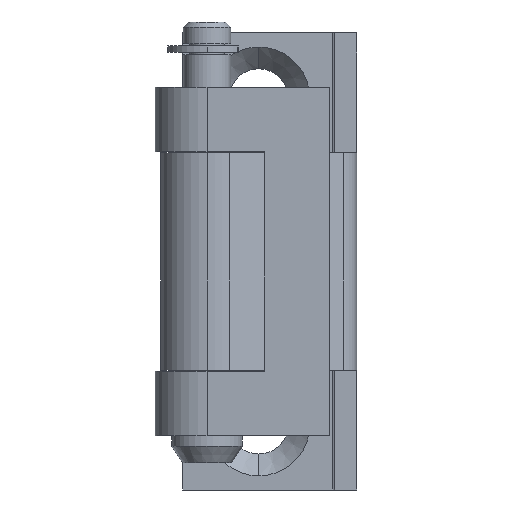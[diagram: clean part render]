
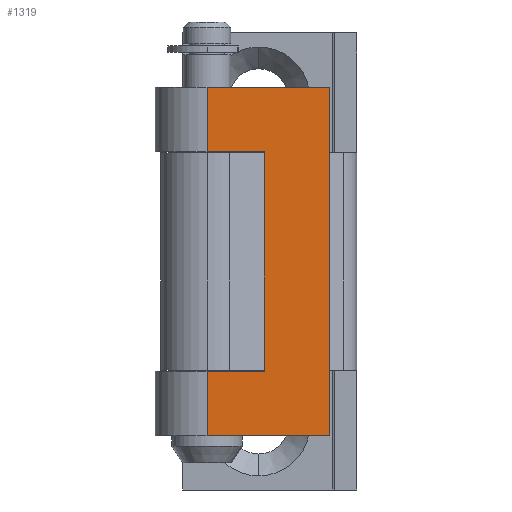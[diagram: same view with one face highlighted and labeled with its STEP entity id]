
A CAD part, left-side view. The second image highlights one B-rep face of the part: STEP entity #1319.
In plain terms, the highlighted planar face has unit normal (-1, 0, 0).
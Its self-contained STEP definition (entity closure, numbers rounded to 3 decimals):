
#858 = DIRECTION ( 'NONE',  ( 1., 0., 0. ) ) ;
#859 = AXIS2_PLACEMENT_3D ( 'NONE', #860, #858, #861 ) ;
#860 = CARTESIAN_POINT ( 'NONE',  ( 0., 0., 32. ) ) ;
#861 = DIRECTION ( 'NONE',  ( 0., 0., -1. ) ) ;
#865 = PLANE ( 'NONE',  #859 ) ;
#868 = DIRECTION ( 'NONE',  ( 0., 0., -1. ) ) ;
#869 = CARTESIAN_POINT ( 'NONE',  ( 0., 0., 32. ) ) ;
#870 = VECTOR ( 'NONE', #868, 1000. ) ;
#871 = VECTOR ( 'NONE', #872, 1000. ) ;
#872 = DIRECTION ( 'NONE',  ( 0., -1., 0. ) ) ;
#873 = LINE ( 'NONE', #874, #871 ) ;
#874 = CARTESIAN_POINT ( 'NONE',  ( 0., 0., 26.1 ) ) ;
#875 = LINE ( 'NONE', #869, #870 ) ;
#880 = FACE_OUTER_BOUND ( 'NONE', #1320, .T. ) ;
#881 = CARTESIAN_POINT ( 'NONE',  ( 0., 0., 5.9 ) ) ;
#882 = LINE ( 'NONE', #881, #884 ) ;
#883 = DIRECTION ( 'NONE',  ( 0., 1., 0. ) ) ;
#884 = VECTOR ( 'NONE', #883, 1000. ) ;
#1294 = VERTEX_POINT ( 'NONE', #2664 ) ;
#1295 = VERTEX_POINT ( 'NONE', #2666 ) ;
#1296 = EDGE_CURVE ( 'NONE', #1294, #1295, #2382, .T. ) ;
#1297 = EDGE_CURVE ( 'NONE', #1317, #1357, #2945, .T. ) ;
#1298 = VERTEX_POINT ( 'NONE', #3173 ) ;
#1299 = ORIENTED_EDGE ( 'NONE', *, *, #1324, .T. ) ;
#1300 = VERTEX_POINT ( 'NONE', #3219 ) ;
#1317 = VERTEX_POINT ( 'NONE', #1988 ) ;
#1318 = EDGE_CURVE ( 'NONE', #1351, #1346, #2015, .T. ) ;
#1319 = ADVANCED_FACE ( 'NONE', ( #880 ), #865, .F. ) ;
#1320 = EDGE_LOOP ( 'NONE', ( #1322, #1323, #1299, #1348, #1329, #1352, #1350, #1356 ) ) ;
#1322 = ORIENTED_EDGE ( 'NONE', *, *, #1327, .T. ) ;
#1323 = ORIENTED_EDGE ( 'NONE', *, *, #1296, .T. ) ;
#1324 = EDGE_CURVE ( 'NONE', #1295, #1317, #882, .T. ) ;
#1327 = EDGE_CURVE ( 'NONE', #1346, #1294, #873, .T. ) ;
#1329 = ORIENTED_EDGE ( 'NONE', *, *, #1355, .T. ) ;
#1330 = EDGE_CURVE ( 'NONE', #1300, #1298, #875, .T. ) ;
#1346 = VERTEX_POINT ( 'NONE', #2753 ) ;
#1348 = ORIENTED_EDGE ( 'NONE', *, *, #1297, .T. ) ;
#1350 = ORIENTED_EDGE ( 'NONE', *, *, #1353, .F. ) ;
#1351 = VERTEX_POINT ( 'NONE', #2693 ) ;
#1352 = ORIENTED_EDGE ( 'NONE', *, *, #1330, .F. ) ;
#1353 = EDGE_CURVE ( 'NONE', #1351, #1300, #2746, .T. ) ;
#1355 = EDGE_CURVE ( 'NONE', #1357, #1298, #2734, .T. ) ;
#1356 = ORIENTED_EDGE ( 'NONE', *, *, #1318, .T. ) ;
#1357 = VERTEX_POINT ( 'NONE', #2747 ) ;
#1988 = CARTESIAN_POINT ( 'NONE',  ( 0., 11.25, 5.9 ) ) ;
#2014 = DIRECTION ( 'NONE',  ( 0., 0., -1. ) ) ;
#2015 = LINE ( 'NONE', #2020, #2019 ) ;
#2019 = VECTOR ( 'NONE', #2014, 1000. ) ;
#2020 = CARTESIAN_POINT ( 'NONE',  ( 0., 11.25, 32. ) ) ;
#2354 = VECTOR ( 'NONE', #2380, 1000. ) ;
#2380 = DIRECTION ( 'NONE',  ( 0., 0., -1. ) ) ;
#2381 = CARTESIAN_POINT ( 'NONE',  ( 0., 6., 32. ) ) ;
#2382 = LINE ( 'NONE', #2381, #2387 ) ;
#2387 = VECTOR ( 'NONE', #2406, 1000. ) ;
#2406 = DIRECTION ( 'NONE',  ( 0., 0., -1. ) ) ;
#2664 = CARTESIAN_POINT ( 'NONE',  ( 0., 6., 26.1 ) ) ;
#2666 = CARTESIAN_POINT ( 'NONE',  ( 0., 6., 5.9 ) ) ;
#2693 = CARTESIAN_POINT ( 'NONE',  ( 0., 11.25, 32. ) ) ;
#2731 = DIRECTION ( 'NONE',  ( 0., -1., 0. ) ) ;
#2732 = VECTOR ( 'NONE', #2731, 1000. ) ;
#2733 = CARTESIAN_POINT ( 'NONE',  ( 0., 0., 0. ) ) ;
#2734 = LINE ( 'NONE', #2733, #2732 ) ;
#2740 = DIRECTION ( 'NONE',  ( 0., -1., 0. ) ) ;
#2741 = VECTOR ( 'NONE', #2740, 1000. ) ;
#2745 = CARTESIAN_POINT ( 'NONE',  ( 0., 0., 32. ) ) ;
#2746 = LINE ( 'NONE', #2745, #2741 ) ;
#2747 = CARTESIAN_POINT ( 'NONE',  ( 0., 11.25, 0. ) ) ;
#2753 = CARTESIAN_POINT ( 'NONE',  ( 0., 11.25, 26.1 ) ) ;
#2944 = CARTESIAN_POINT ( 'NONE',  ( 0., 11.25, 32. ) ) ;
#2945 = LINE ( 'NONE', #2944, #2354 ) ;
#3173 = CARTESIAN_POINT ( 'NONE',  ( 0., 0., 0. ) ) ;
#3219 = CARTESIAN_POINT ( 'NONE',  ( 0., 0., 32. ) ) ;
